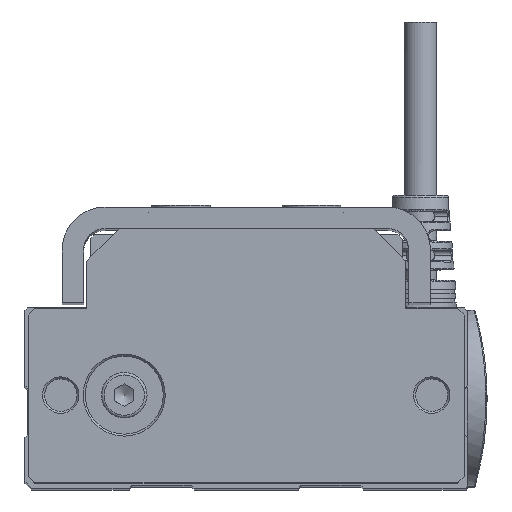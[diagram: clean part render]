
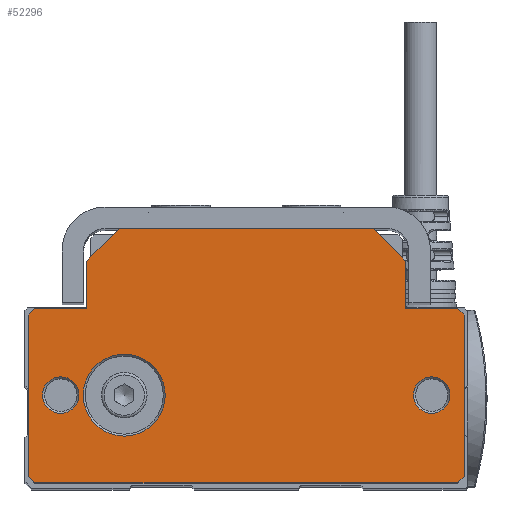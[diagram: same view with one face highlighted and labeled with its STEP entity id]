
A CAD part, top view. The second image highlights one B-rep face of the part: STEP entity #52296.
In plain terms, the highlighted planar face has unit normal (0, 0, 1).
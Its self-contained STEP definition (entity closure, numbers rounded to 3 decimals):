
#4346=FACE_BOUND('',#12546,.T.);
#4347=FACE_BOUND('',#12547,.T.);
#4348=FACE_BOUND('',#12548,.T.);
#6772=CIRCLE('',#57157,2.8);
#6773=CIRCLE('',#57158,2.8);
#6774=CIRCLE('',#57159,2.8);
#6775=CIRCLE('',#57160,2.8);
#6776=CIRCLE('',#57161,6.3);
#6777=CIRCLE('',#57162,6.3);
#9514=FACE_OUTER_BOUND('',#12545,.T.);
#12545=EDGE_LOOP('',(#48015,#48016,#48017,#48018,#48019,#48020,#48021,#48022,
#48023,#48024,#48025,#48026,#48027,#48028));
#12546=EDGE_LOOP('',(#48029,#48030));
#12547=EDGE_LOOP('',(#48031,#48032));
#12548=EDGE_LOOP('',(#48033,#48034));
#16569=LINE('',#114625,#20561);
#16571=LINE('',#114629,#20563);
#16574=LINE('',#114635,#20566);
#16575=LINE('',#114637,#20567);
#16576=LINE('',#114639,#20568);
#16577=LINE('',#114641,#20569);
#16578=LINE('',#114643,#20570);
#16579=LINE('',#114645,#20571);
#16580=LINE('',#114647,#20572);
#16581=LINE('',#114649,#20573);
#16582=LINE('',#114651,#20574);
#16583=LINE('',#114653,#20575);
#16584=LINE('',#114655,#20576);
#16585=LINE('',#114656,#20577);
#20561=VECTOR('',#70116,10.);
#20563=VECTOR('',#70120,1000.);
#20566=VECTOR('',#70125,1000.);
#20567=VECTOR('',#70126,10.);
#20568=VECTOR('',#70127,1000.);
#20569=VECTOR('',#70128,1000.);
#20570=VECTOR('',#70129,1000.);
#20571=VECTOR('',#70130,1000.);
#20572=VECTOR('',#70131,1000.);
#20573=VECTOR('',#70132,1000.);
#20574=VECTOR('',#70133,1000.);
#20575=VECTOR('',#70134,1000.);
#20576=VECTOR('',#70135,1000.);
#20577=VECTOR('',#70136,1000.);
#25575=VERTEX_POINT('',#114622);
#25576=VERTEX_POINT('',#114624);
#25577=VERTEX_POINT('',#114628);
#25579=VERTEX_POINT('',#114634);
#25580=VERTEX_POINT('',#114636);
#25581=VERTEX_POINT('',#114638);
#25582=VERTEX_POINT('',#114640);
#25583=VERTEX_POINT('',#114642);
#25584=VERTEX_POINT('',#114644);
#25585=VERTEX_POINT('',#114646);
#25586=VERTEX_POINT('',#114648);
#25587=VERTEX_POINT('',#114650);
#25588=VERTEX_POINT('',#114652);
#25589=VERTEX_POINT('',#114654);
#25590=VERTEX_POINT('',#114657);
#25591=VERTEX_POINT('',#114658);
#25592=VERTEX_POINT('',#114661);
#25593=VERTEX_POINT('',#114662);
#25594=VERTEX_POINT('',#114665);
#25595=VERTEX_POINT('',#114666);
#33092=EDGE_CURVE('',#25575,#25576,#16569,.T.);
#33094=EDGE_CURVE('',#25576,#25577,#16571,.T.);
#33097=EDGE_CURVE('',#25575,#25579,#16574,.T.);
#33098=EDGE_CURVE('',#25580,#25579,#16575,.T.);
#33099=EDGE_CURVE('',#25581,#25580,#16576,.T.);
#33100=EDGE_CURVE('',#25582,#25581,#16577,.T.);
#33101=EDGE_CURVE('',#25582,#25583,#16578,.T.);
#33102=EDGE_CURVE('',#25583,#25584,#16579,.T.);
#33103=EDGE_CURVE('',#25584,#25585,#16580,.T.);
#33104=EDGE_CURVE('',#25586,#25585,#16581,.T.);
#33105=EDGE_CURVE('',#25586,#25587,#16582,.T.);
#33106=EDGE_CURVE('',#25587,#25588,#16583,.T.);
#33107=EDGE_CURVE('',#25588,#25589,#16584,.T.);
#33108=EDGE_CURVE('',#25577,#25589,#16585,.T.);
#33109=EDGE_CURVE('',#25590,#25591,#6772,.T.);
#33110=EDGE_CURVE('',#25591,#25590,#6773,.T.);
#33111=EDGE_CURVE('',#25592,#25593,#6774,.T.);
#33112=EDGE_CURVE('',#25593,#25592,#6775,.T.);
#33113=EDGE_CURVE('',#25594,#25595,#6776,.T.);
#33114=EDGE_CURVE('',#25595,#25594,#6777,.T.);
#48015=ORIENTED_EDGE('',*,*,#33092,.F.);
#48016=ORIENTED_EDGE('',*,*,#33097,.T.);
#48017=ORIENTED_EDGE('',*,*,#33098,.F.);
#48018=ORIENTED_EDGE('',*,*,#33099,.F.);
#48019=ORIENTED_EDGE('',*,*,#33100,.F.);
#48020=ORIENTED_EDGE('',*,*,#33101,.T.);
#48021=ORIENTED_EDGE('',*,*,#33102,.T.);
#48022=ORIENTED_EDGE('',*,*,#33103,.T.);
#48023=ORIENTED_EDGE('',*,*,#33104,.F.);
#48024=ORIENTED_EDGE('',*,*,#33105,.T.);
#48025=ORIENTED_EDGE('',*,*,#33106,.T.);
#48026=ORIENTED_EDGE('',*,*,#33107,.T.);
#48027=ORIENTED_EDGE('',*,*,#33108,.F.);
#48028=ORIENTED_EDGE('',*,*,#33094,.F.);
#48029=ORIENTED_EDGE('',*,*,#33109,.T.);
#48030=ORIENTED_EDGE('',*,*,#33110,.T.);
#48031=ORIENTED_EDGE('',*,*,#33111,.T.);
#48032=ORIENTED_EDGE('',*,*,#33112,.T.);
#48033=ORIENTED_EDGE('',*,*,#33113,.T.);
#48034=ORIENTED_EDGE('',*,*,#33114,.T.);
#49593=PLANE('',#57156);
#52296=ADVANCED_FACE('',(#9514,#4346,#4347,#4348),#49593,.T.);
#57156=AXIS2_PLACEMENT_3D('',#114633,#70123,#70124);
#57157=AXIS2_PLACEMENT_3D('',#114659,#70137,#70138);
#57158=AXIS2_PLACEMENT_3D('',#114660,#70139,#70140);
#57159=AXIS2_PLACEMENT_3D('',#114663,#70141,#70142);
#57160=AXIS2_PLACEMENT_3D('',#114664,#70143,#70144);
#57161=AXIS2_PLACEMENT_3D('',#114667,#70145,#70146);
#57162=AXIS2_PLACEMENT_3D('',#114668,#70147,#70148);
#70116=DIRECTION('',(0.707,-0.707,0.));
#70120=DIRECTION('',(0.,-1.,0.));
#70123=DIRECTION('center_axis',(0.,0.,1.));
#70124=DIRECTION('ref_axis',(1.,0.,0.));
#70125=DIRECTION('',(-1.,0.,0.));
#70126=DIRECTION('',(0.707,0.707,0.));
#70127=DIRECTION('',(0.,1.,0.));
#70128=DIRECTION('',(1.,0.,0.));
#70129=DIRECTION('',(-0.707,-0.707,0.));
#70130=DIRECTION('',(0.,-1.,0.));
#70131=DIRECTION('',(0.707,-0.707,0.));
#70132=DIRECTION('',(-1.,0.,0.));
#70133=DIRECTION('',(0.707,0.707,0.));
#70134=DIRECTION('',(0.,1.,0.));
#70135=DIRECTION('',(-0.707,0.707,0.));
#70136=DIRECTION('',(1.,0.,0.));
#70137=DIRECTION('center_axis',(0.,0.,-1.));
#70138=DIRECTION('ref_axis',(1.,0.,0.));
#70139=DIRECTION('center_axis',(0.,0.,-1.));
#70140=DIRECTION('ref_axis',(1.,0.,0.));
#70141=DIRECTION('center_axis',(0.,0.,-1.));
#70142=DIRECTION('ref_axis',(1.,0.,0.));
#70143=DIRECTION('center_axis',(0.,0.,-1.));
#70144=DIRECTION('ref_axis',(1.,0.,0.));
#70145=DIRECTION('center_axis',(0.,0.,-1.));
#70146=DIRECTION('ref_axis',(1.,0.,0.));
#70147=DIRECTION('center_axis',(0.,0.,-1.));
#70148=DIRECTION('ref_axis',(1.,0.,0.));
#114622=CARTESIAN_POINT('',(19.5,19.575,0.));
#114624=CARTESIAN_POINT('',(24.5,14.575,0.));
#114625=CARTESIAN_POINT('',(20.769,18.306,0.));
#114628=CARTESIAN_POINT('',(24.5,7.275,0.));
#114629=CARTESIAN_POINT('',(24.5,20.025,0.));
#114633=CARTESIAN_POINT('Origin',(0.,0.,0.));
#114634=CARTESIAN_POINT('',(-19.5,19.575,0.));
#114635=CARTESIAN_POINT('',(-33.5,19.575,0.));
#114636=CARTESIAN_POINT('',(-24.5,14.575,0.));
#114637=CARTESIAN_POINT('',(-20.769,18.306,0.));
#114638=CARTESIAN_POINT('',(-24.5,7.275,0.));
#114639=CARTESIAN_POINT('',(-24.5,20.025,0.));
#114640=CARTESIAN_POINT('',(-32.5,7.275,0.));
#114641=CARTESIAN_POINT('',(-33.5,7.275,0.));
#114642=CARTESIAN_POINT('',(-33.5,6.275,0.));
#114643=CARTESIAN_POINT('',(-19.888,19.888,0.));
#114644=CARTESIAN_POINT('',(-33.5,-18.525,0.));
#114645=CARTESIAN_POINT('',(-33.5,20.025,0.));
#114646=CARTESIAN_POINT('',(-32.5,-19.525,0.));
#114647=CARTESIAN_POINT('',(-26.013,-26.012,0.));
#114648=CARTESIAN_POINT('',(32.5,-19.525,0.));
#114649=CARTESIAN_POINT('',(33.5,-19.525,0.));
#114650=CARTESIAN_POINT('',(33.5,-18.525,0.));
#114651=CARTESIAN_POINT('',(26.013,-26.012,0.));
#114652=CARTESIAN_POINT('',(33.5,6.275,0.));
#114653=CARTESIAN_POINT('',(33.5,20.025,0.));
#114654=CARTESIAN_POINT('',(32.5,7.275,0.));
#114655=CARTESIAN_POINT('',(19.888,19.888,0.));
#114656=CARTESIAN_POINT('',(33.5,7.275,0.));
#114657=CARTESIAN_POINT('',(31.3,-6.025,0.));
#114658=CARTESIAN_POINT('',(25.7,-6.025,0.));
#114659=CARTESIAN_POINT('Origin',(28.5,-6.025,0.));
#114660=CARTESIAN_POINT('Origin',(28.5,-6.025,0.));
#114661=CARTESIAN_POINT('',(-25.7,-6.025,0.));
#114662=CARTESIAN_POINT('',(-31.3,-6.025,0.));
#114663=CARTESIAN_POINT('Origin',(-28.5,-6.025,0.));
#114664=CARTESIAN_POINT('Origin',(-28.5,-6.025,0.));
#114665=CARTESIAN_POINT('',(-12.45,-6.025,0.));
#114666=CARTESIAN_POINT('',(-25.05,-6.025,0.));
#114667=CARTESIAN_POINT('Origin',(-18.75,-6.025,0.));
#114668=CARTESIAN_POINT('Origin',(-18.75,-6.025,0.));
